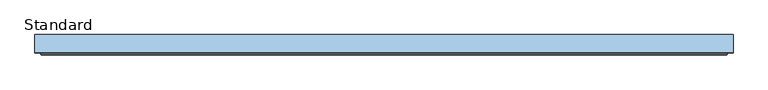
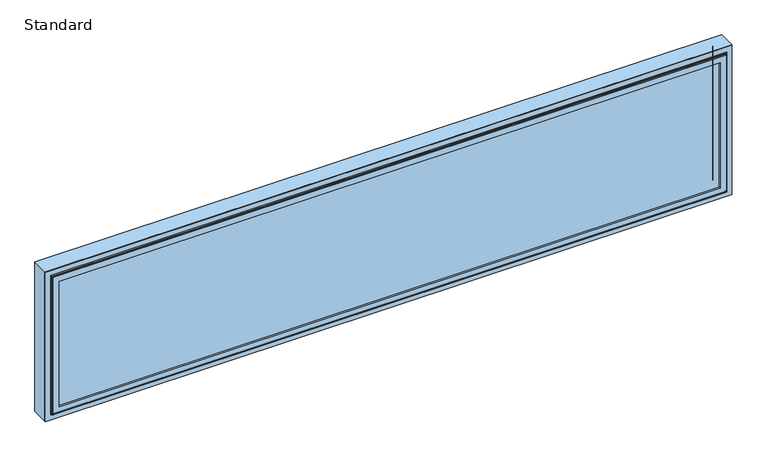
"""IFC4 building model written with IfcOpenShell, lengths in millimetres: window geometry, SMARTS_AlithermHeritage : Standard."""

from ifc_helpers import new_model, si_unit, frame, origin, place, context, project, spatial, polyline, ellipse_curve, outline, extrude, faceted_brep, source, transform, mapped, element, save
from ifc_brep_helpers import plane_surface, cylinder_surface, revolved_surface, advanced_brep


def standard_7249c8dd(model_context):
    return source(origin(), model_context, "Body", "SolidModel", [
        extrude(outline(polyline([(1020.0, 890.0), (1020.0, -890.0), (610.0, -890.0), (610.0, 890.0), (1020.0, 890.0)]), holes=[polyline([(627.7000182, 872.2999818), (627.7000182, -872.2999818), (1002.2999818, -872.2999818), (1002.2999818, 872.2999818), (627.7000182, 872.2999818)])]), frame((0.0, 50.279857, 0.0), z_axis=(0.0, 1.0, 0.0), x_axis=(0.0, 0.0, 1.0)), (0.0, 0.0, 1.0), 44.9999962),
        advanced_brep(
        [(857.0, 43.2798432, 987.0), (857.0, 47.2798432, 987.0), (857.0, 47.2798432, 643.0), (857.0, 43.2798432, 643.0), (890.0, 50.279857, 1020.0), (890.0, 48.279857, 1020.0), (890.0, 48.279857, 610.0), (890.0, 50.279857, 610.0), (872.4999818, 43.2798432, 1002.4999818), (-872.4999818, 43.2798432, 1002.4999818), (-872.4999818, 43.2798432, 627.5000182), (872.4999818, 43.2798432, 627.5000182), (-857.0, 43.2798432, 643.0), (-857.0, 43.2798432, 987.0), (-890.0, 50.279857, 1020.0), (-890.0, 48.279857, 1020.0), (-890.0, 50.279857, 610.0), (872.2999818, 50.279857, 1002.2999818), (-872.2999818, 50.279857, 1002.2999818), (-872.2999818, 50.279857, 627.7000182), (872.2999818, 50.279857, 627.7000182), (-857.0, 47.2798432, 987.0), (-857.0, 47.2798432, 643.0), (-890.0, 48.279857, 610.0), (-872.2999818, 47.2798432, 1002.2999818), (872.2999818, 47.2798432, 1002.2999818), (872.2999818, 47.2798432, 627.7000182), (874.4999818, 46.779857, 625.5000182), (874.4999818, 45.2798432, 625.5000182), (-874.4999818, 45.2798432, 625.5000182), (-874.4999818, 46.779857, 625.5000182), (874.4999818, 46.779857, 1004.4999818), (874.4999818, 45.2798432, 1004.4999818), (-872.2999818, 47.2798432, 627.7000182), (-874.4999818, 45.2798432, 1004.4999818), (-874.4999818, 46.779857, 1004.4999818), (875.9999818, 48.279857, 1005.9999818), (875.9999818, 48.279857, 624.0000182), (-875.9999818, 48.279857, 624.0000182), (-875.9999818, 48.279857, 1005.9999818)],
        [
            (0, 1),
            (1, 2),
            (2, 3),
            (3, 0),
            (4, 5),
            (5, 6),
            (6, 7),
            (7, 4),
            (8, 9),
            (9, 10),
            (10, 11),
            (11, 8),
            (3, 12),
            (12, 13),
            (13, 0),
            (14, 15),
            (15, 5),
            (4, 14),
            (7, 16),
            (16, 14),
            (17, 18),
            (18, 19),
            (19, 20),
            (20, 17),
            (13, 21),
            (21, 1),
            (2, 22),
            (22, 12),
            (22, 21),
            (6, 23),
            (23, 16),
            (23, 15),
            (24, 18),
            (17, 25),
            (25, 24),
            (20, 26),
            (26, 25),
            (27, 28),
            (28, 29),
            (29, 30),
            (30, 27),
            (31, 32),
            (32, 28),
            (27, 31),
            (19, 33),
            (33, 26),
            (24, 33),
            (29, 34),
            (34, 35),
            (35, 30),
            (34, 32),
            (31, 35),
            (36, 31, ellipse_curve(frame((875.9999818, 46.779857, 1005.9999818), z_axis=(-0.7071067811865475, 0.0, 0.7071067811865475), x_axis=(-0.7071067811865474, 0.0, -0.7071067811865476)), 2.1213203, 1.5)),
            (27, 37, ellipse_curve(frame((875.9999818, 46.779857, 624.0000182), z_axis=(-0.7071067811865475, 0.0, -0.7071067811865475), x_axis=(0.7071067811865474, 0.0, -0.7071067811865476)), 2.1213203, 1.5)),
            (37, 36),
            (30, 38, ellipse_curve(frame((-875.9999818, 46.779857, 624.0000182), z_axis=(-0.7071067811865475, 0.0, 0.7071067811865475), x_axis=(-0.7071067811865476, 0.0, -0.7071067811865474)), 2.1213203, 1.5)),
            (38, 37),
            (35, 39, ellipse_curve(frame((-875.9999818, 46.779857, 1005.9999818), z_axis=(0.7071067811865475, 0.0, 0.7071067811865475), x_axis=(-0.7071067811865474, 0.0, 0.7071067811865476)), 2.1213203, 1.5)),
            (39, 38),
            (36, 39),
            (32, 8, ellipse_curve(frame((872.4999818, 45.2798432, 1002.4999818), z_axis=(0.7071067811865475, 0.0, -0.7071067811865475), x_axis=(0.7071067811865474, 0.0, 0.7071067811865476)), 2.8284271, 2.0)),
            (11, 28, ellipse_curve(frame((872.4999818, 45.2798432, 627.5000182), z_axis=(0.7071067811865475, 0.0, 0.7071067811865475), x_axis=(-0.7071067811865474, 0.0, 0.7071067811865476)), 2.8284271, 2.0)),
            (10, 29, ellipse_curve(frame((-872.4999818, 45.2798432, 627.5000182), z_axis=(0.7071067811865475, 0.0, -0.7071067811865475), x_axis=(0.7071067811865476, 0.0, 0.7071067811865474)), 2.8284271, 2.0)),
            (9, 34, ellipse_curve(frame((-872.4999818, 45.2798432, 1002.4999818), z_axis=(-0.7071067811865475, 0.0, -0.7071067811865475), x_axis=(0.7071067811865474, 0.0, -0.7071067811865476)), 2.8284271, 2.0)),
        ],
        [
            plane_surface(frame((857.0, 47.2798432, 987.0), z_axis=(-1.0, 0.0, 0.0), x_axis=(0.0, 0.0, -1.0))),
            plane_surface(frame((890.0, 48.279857, 1020.0), z_axis=(1.0, 0.0, 0.0), x_axis=(0.0, 0.0, -1.0))),
            plane_surface(frame((-857.0, 43.2798432, 987.0), z_axis=(0.0, -1.0, 0.0), x_axis=(1.0, 0.0, 0.0))),
            plane_surface(frame((-890.0, 48.279857, 1020.0), z_axis=(0.0, 0.0, 1.0), x_axis=(1.0, 0.0, 0.0))),
            plane_surface(frame((-890.0, 50.279857, 1020.0), z_axis=(0.0, 1.0, 0.0), x_axis=(1.0, 0.0, 0.0))),
            plane_surface(frame((-857.0, 47.2798432, 987.0), z_axis=(0.0, 0.0, -1.0), x_axis=(1.0, 0.0, 0.0))),
            plane_surface(frame((857.0, 47.2798432, 643.0), z_axis=(0.0, 0.0, 1.0), x_axis=(-1.0, 0.0, 0.0))),
            plane_surface(frame((-857.0, 47.2798432, 643.0), z_axis=(1.0, 0.0, 0.0), x_axis=(0.0, 0.0, 1.0))),
            plane_surface(frame((890.0, 48.279857, 610.0), z_axis=(0.0, 0.0, -1.0), x_axis=(-1.0, 0.0, 0.0))),
            plane_surface(frame((-890.0, 48.279857, 610.0), z_axis=(-1.0, 0.0, 0.0), x_axis=(0.0, 0.0, 1.0))),
            plane_surface(frame((-872.2999818, 50.279857, 1002.2999818), z_axis=(0.0, 0.0, -1.0), x_axis=(1.0, 0.0, 0.0))),
            plane_surface(frame((872.2999818, 50.279857, 1002.2999818), z_axis=(-1.0, 0.0, 0.0), x_axis=(0.0, 0.0, -1.0))),
            plane_surface(frame((874.4999818, 45.2798432, 625.5000182), z_axis=(0.0, 0.0, -1.0), x_axis=(-1.0, 0.0, 0.0))),
            plane_surface(frame((874.4999818, 45.2798432, 1004.4999818), z_axis=(1.0, 0.0, 0.0), x_axis=(0.0, 0.0, -1.0))),
            plane_surface(frame((872.2999818, 50.279857, 627.7000182), z_axis=(0.0, 0.0, 1.0), x_axis=(-1.0, 0.0, 0.0))),
            plane_surface(frame((-872.2999818, 50.279857, 627.7000182), z_axis=(1.0, 0.0, 0.0), x_axis=(0.0, 0.0, 1.0))),
            plane_surface(frame((-874.4999818, 45.2798432, 625.5000182), z_axis=(-1.0, 0.0, 0.0), x_axis=(0.0, 0.0, 1.0))),
            plane_surface(frame((-872.2999818, 47.2798432, 1002.2999818), z_axis=(0.0, 1.0, 0.0), x_axis=(1.0, 0.0, 0.0))),
            plane_surface(frame((-874.4999818, 45.2798432, 1004.4999818), z_axis=(0.0, 0.0, 1.0), x_axis=(1.0, 0.0, 0.0))),
            revolved_surface(polyline([(874.4999818, 46.779857, 622.5000182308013), (874.4999818, 46.779857, 1007.4999817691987)]), (875.9999818, 46.779857, 1020.0), (0.0, 0.0, -1.0)),
            revolved_surface(polyline([(-877.4999817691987, 46.779857, 625.5000182), (877.4999817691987, 46.779857, 625.5000182)]), (890.0, 46.779857, 624.0000182), (-1.0, 0.0, 0.0)),
            revolved_surface(polyline([(-874.4999818, 46.779857, 1007.4999817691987), (-874.4999818, 46.779857, 622.5000182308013)]), (-875.9999818, 46.779857, 610.0), (0.0, 0.0, 1.0)),
            revolved_surface(polyline([(877.4999817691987, 46.779857, 1004.4999818), (-877.4999817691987, 46.779857, 1004.4999818)]), (-890.0, 46.779857, 1005.9999818), (1.0, 0.0, 0.0)),
            plane_surface(frame((-875.9999818, 48.279857, 1005.9999818), z_axis=(0.0, -1.0, 0.0), x_axis=(1.0, 0.0, 0.0))),
            cylinder_surface(frame((872.4999818, 45.2798432, 1020.0), z_axis=(0.0, 0.0, 1.0), x_axis=(-1.0, 0.0, 0.0)), 2.0),
            cylinder_surface(frame((890.0, 45.2798432, 627.5000182), z_axis=(1.0, 0.0, 0.0), x_axis=(0.0, 0.0, 1.0)), 2.0),
            cylinder_surface(frame((-872.4999818, 45.2798432, 610.0), z_axis=(0.0, 0.0, -1.0), x_axis=(1.0, 0.0, 0.0)), 2.0),
            cylinder_surface(frame((-890.0, 45.2798432, 1002.4999818), z_axis=(-1.0, 0.0, 0.0), x_axis=(0.0, 0.0, -1.0)), 2.0),
        ],
        [
            (0, [[1, 2, 3, 4]]),
            (1, [[5, 6, 7, 8]]),
            (2, [[9, 10, 11, 12], [13, 14, 15, -4]]),
            (3, [[16, 17, -5, 18]]),
            (4, [[19, 20, -18, -8], [21, 22, 23, 24]]),
            (5, [[25, 26, -1, -15]]),
            (6, [[-3, 27, 28, -13]]),
            (7, [[-28, 29, -25, -14]]),
            (8, [[-7, 30, 31, -19]]),
            (9, [[-31, 32, -16, -20]]),
            (10, [[33, -21, 34, 35]]),
            (11, [[-34, -24, 36, 37]]),
            (12, [[38, 39, 40, 41]]),
            (13, [[42, 43, -38, 44]]),
            (14, [[-36, -23, 45, 46]]),
            (15, [[-45, -22, -33, 47]]),
            (16, [[-40, 48, 49, 50]]),
            (17, [[-46, -47, -35, -37], [-26, -29, -27, -2]]),
            (18, [[-49, 51, -42, 52]]),
            (19, [[53, -44, 54, 55]]),
            (20, [[-54, -41, 56, 57]]),
            (21, [[-56, -50, 58, 59]]),
            (22, [[-58, -52, -53, 60]]),
            (23, [[-17, -32, -30, -6], [-57, -59, -60, -55]]),
            (24, [[61, -12, 62, -43]]),
            (25, [[-62, -11, 63, -39]]),
            (26, [[-63, -10, 64, -48]]),
            (27, [[-64, -9, -61, -51]]),
        ],
    ),
        extrude(outline(polyline([(-867.0, 75.2798432), (867.0, 75.2798432), (867.0, 71.2798432), (-867.0, 71.2798432), (-867.0, 75.2798432)])), frame((0.0, 0.0, 633.0), z_axis=(0.0, 0.0, 1.0), x_axis=(1.0, 0.0, 0.0)), (0.0, 0.0, 1.0), 364.0),
        extrude(outline(polyline([(-867.0, 55.2798432), (867.0, 55.2798432), (867.0, 51.2798432), (-867.0, 51.2798432), (-867.0, 55.2798432)])), frame((0.0, 0.0, 633.0), z_axis=(0.0, 0.0, 1.0), x_axis=(1.0, 0.0, 0.0)), (0.0, 0.0, 1.0), 364.0),
        extrude(outline(polyline([(997.0, -867.0), (633.0, -867.0), (633.0, 867.0), (997.0, 867.0), (997.0, -867.0)]), holes=[polyline([(987.0, 857.0), (643.0, 857.0), (643.0, -857.0), (987.0, -857.0), (987.0, 857.0)])]), frame((0.0, 55.2798432, 0.0), z_axis=(0.0, 1.0, 0.0), x_axis=(0.0, 0.0, 1.0)), (0.0, 0.0, 1.0), 16.0),
        faceted_brep([(866.8148849, 95.2798432, 996.8148849), (857.0, 78.2798098, 987.0), (-857.0, 78.2798098, 987.0), (-866.8148849, 95.2798432, 996.8148849), (872.3702676, 78.2798098, 1002.3702676), (872.3702676, 95.2798432, 1002.3702676), (-872.3702676, 95.2798432, 1002.3702676), (-872.3702676, 78.2798098, 1002.3702676), (-872.3702676, 78.2798098, 627.6297324), (-872.3702676, 95.2798432, 627.6297324), (872.3702676, 95.2798432, 627.6297324), (872.3702676, 78.2798098, 627.6297324), (-866.8148849, 95.2798432, 633.1851151), (866.8148849, 95.2798432, 633.1851151), (857.0, 78.2798098, 643.0), (-857.0, 78.2798098, 643.0)], [[[0, 1, 2, 3]], [[4, 5, 6, 7]], [[8, 9, 10, 11]], [[5, 10, 9, 6], [3, 12, 13, 0]], [[7, 8, 11, 4], [1, 14, 15, 2]], [[3, 2, 15, 12]], [[7, 6, 9, 8]], [[12, 15, 14, 13]], [[13, 14, 1, 0]], [[11, 10, 5, 4]]]),
    ])


if __name__ == "__main__":
    model = new_model("IFC4")
    model_context = context("Model", 3, world=origin())
    ifc_project = project(units=[si_unit("LENGTHUNIT", "METRE", prefix="MILLI")], contexts=[model_context])
    site = spatial("IfcSite", under=ifc_project)
    building = spatial("IfcBuilding", under=site)
    placement = place(None, origin())
    standard_shape = standard_7249c8dd(model_context)
    element("IfcWindow", 1, ObjectType="SMARTS_AlithermHeritage : Standard", at=placement, inside=building, context=model_context, shape_type="MappedRepresentation", body=[
        mapped(standard_shape, transform((0.0, 0.0, 0.0), x_axis=(1.0, 0.0, 0.0), y_axis=(0.0, 1.0, 0.0), z_axis=(0.0, 0.0, 1.0))),
    ])
    save(model, "model.ifc")
